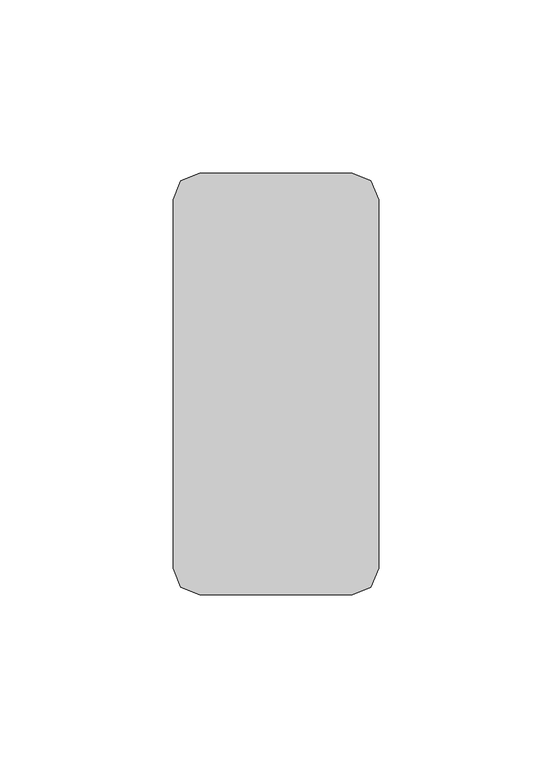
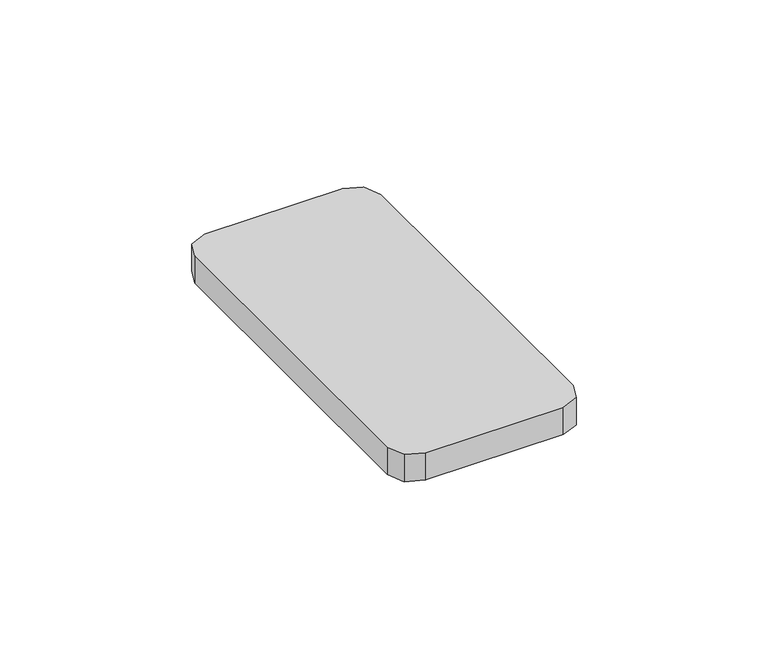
"""IFC4 building model written with IfcOpenShell, lengths in millimetres: geographic element geometry, Enscape AssetDefinition - Smartphone 001 : Enscape AssetDefinition - Smartphone 001."""

from ifc_helpers import new_model, si_unit, origin, place, context, project, spatial, triangles, source, transform, mapped, element, save


def geographic_element_74562958(model_context):
    return source(origin(), model_context, "Body", "Tessellation", [
        triangles([(-27.474999, -58.7129996, 0.0), (-22.0569999, -60.9569987, 0.0), (-27.474999, -58.7129996, 9.1460005), (22.0569999, -60.9569987, 9.1460005), (27.474999, -58.7129996, 9.1460005), (-22.0569999, -60.9569987, 9.1460005), (-29.7190004, -53.2950027, 9.1460005), (-29.7190004, -53.2950027, 0.0), (22.0569999, -60.9569987, 0.0), (-29.7190004, 53.2950027, 0.0), (-27.474999, 58.7129996, 0.0), (-27.474999, 58.7129996, 9.1460005), (-22.0569999, 60.9569987, 0.0), (22.0569999, 60.9569987, 9.1460005), (-29.7190004, 53.2950027, 9.1460005), (-22.0569999, 60.9569987, 9.1460005), (22.0569999, 60.9569987, 0.0), (27.474999, 58.7129996, 9.1460005), (29.7190004, 53.2950027, 0.0), (27.474999, 58.7129996, 0.0), (29.7190004, 53.2950027, 9.1460005), (29.7190004, -53.2950027, 0.0), (29.7190004, -53.2950027, 9.1460005), (27.474999, -58.7129996, 0.0)], [[22, 24, 9], [9, 19, 22], [5, 24, 22], [5, 22, 23], [22, 21, 23], [22, 19, 21], [20, 21, 19], [9, 20, 19], [20, 18, 21], [15, 21, 18], [15, 23, 21], [15, 5, 23], [15, 18, 14], [17, 18, 20], [17, 14, 18], [9, 17, 20], [9, 13, 17], [15, 14, 16], [17, 16, 14], [17, 13, 16], [16, 12, 15], [16, 11, 12], [16, 13, 11], [9, 11, 13], [12, 10, 15], [12, 11, 10], [9, 10, 11], [9, 8, 10], [10, 7, 15], [10, 8, 7], [1, 7, 8], [9, 1, 8], [1, 3, 7], [15, 7, 3], [15, 3, 6], [4, 24, 5], [4, 9, 24], [15, 4, 5], [15, 6, 4], [2, 3, 1], [2, 6, 3], [9, 2, 1], [2, 4, 6], [2, 9, 4]]),
    ])


if __name__ == "__main__":
    model = new_model("IFC4")
    model_context = context("Model", 3, world=origin())
    ifc_project = project(units=[si_unit("LENGTHUNIT", "METRE", prefix="MILLI")], contexts=[model_context])
    site = spatial("IfcSite", under=ifc_project)
    building = spatial("IfcBuilding", under=site)
    placement = place(None, origin())
    geographic_element_shape = geographic_element_74562958(model_context)
    element("IfcGeographicElement", 1, ObjectType="Enscape AssetDefinition - Smartphone 001 : Enscape AssetDefinition - Smartphone 001", at=placement, inside=building, context=model_context, shape_type="MappedRepresentation", body=[
        mapped(geographic_element_shape, transform((0.0, 0.0, 0.0), x_axis=(1.0, 0.0, 0.0), y_axis=(0.0, 1.0, 0.0), z_axis=(0.0, 0.0, 1.0))),
    ])
    save(model, "model.ifc")
